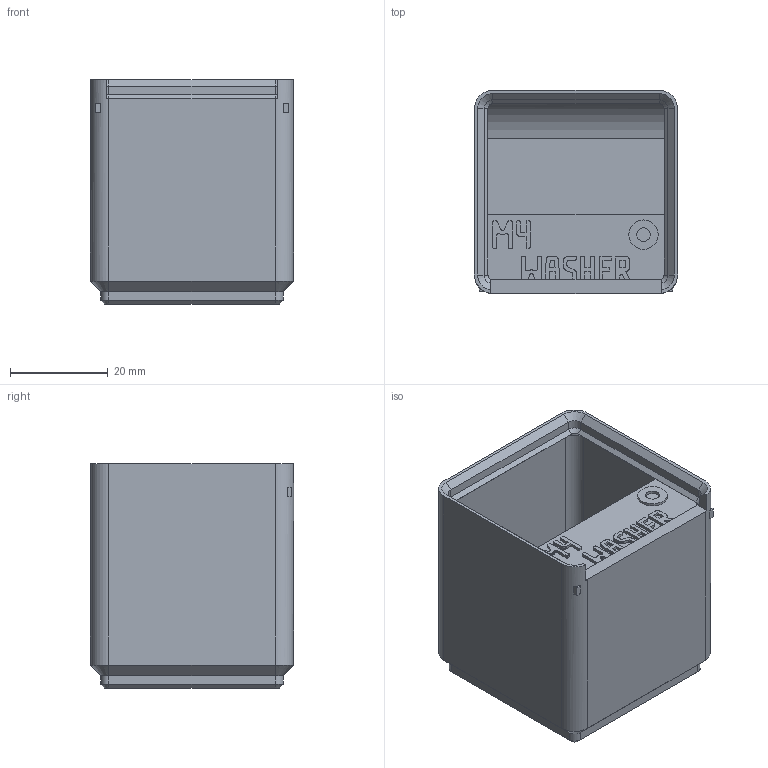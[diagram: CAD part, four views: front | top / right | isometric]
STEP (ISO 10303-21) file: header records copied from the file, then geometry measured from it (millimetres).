
FILE_DESCRIPTION(('Open CASCADE Model'),'2;1');
FILE_NAME('Open CASCADE Shape Model','2026-11-03T10:35:51',('Author'),( 'Open CASCADE'),'Open CASCADE STEP processor 8.0','build123d', 'Unknown');
FILE_SCHEMA(('AUTOMOTIVE_DESIGN { 1 0 10303 214 1 1 1 1 }'));
Products named in the file (1): COMPOUND
Bounding box: 41.5 x 41.5 x 45.9 mm (x, y, z)
Volume: 17226.6 mm3; surface area: 17532.3 mm2
Topology: 1 solids, 1 shells, 909 faces, 2661 edges, 1758 vertices
Faces by surface type: plane 870, cone 20, cylinder 19
Full cylindrical faces by diameter (mm): 2.8 x1, 6 x1
Entity records: 62296 total; most frequent: CARTESIAN_POINT 13255, DIRECTION 7655, LINE 5699, VECTOR 5699, ORIENTED_EDGE 5322, PCURVE 5322, DEFINITIONAL_REPRESENTATION 5322, EDGE_CURVE 2661
